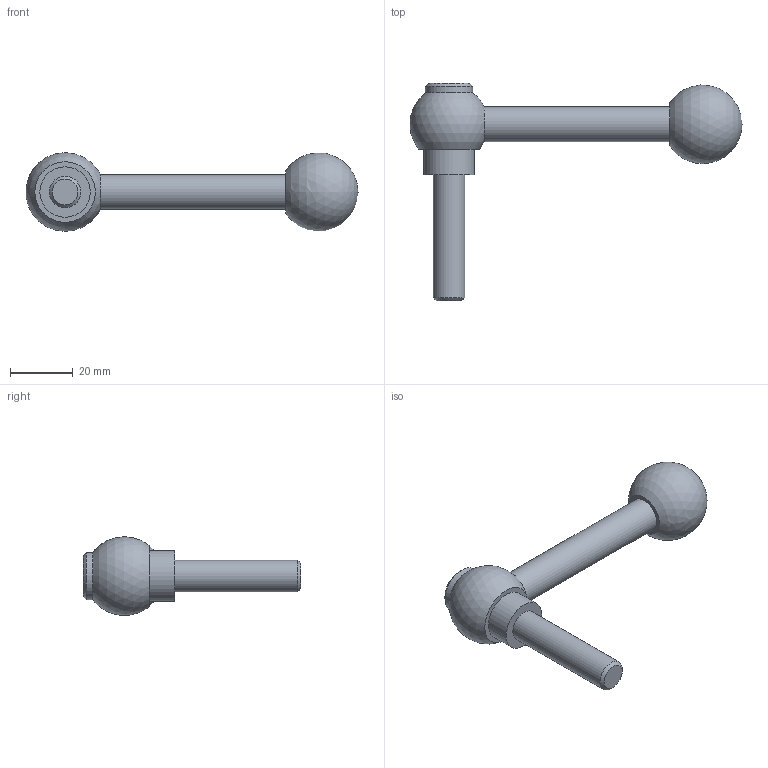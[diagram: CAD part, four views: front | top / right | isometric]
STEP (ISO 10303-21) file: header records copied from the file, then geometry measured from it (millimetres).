
FILE_DESCRIPTION( ( 'STEP AP203' ), '1' );
FILE_NAME( 'C:/Temp/Ganter_Step_05_03_2020/data/2_1/gn_6337_3/gn_6337_3_ms/gn_6337_3_ms_m/Adjustable clamping lever with bolt GN 6337.3-25-M10-40-M.stp', '2020-03-05T11:41:14', ( 'License CC BY-ND 4.0' ), ( 'CADENAS' ), ' ', 'PARTsolutions', ' ' );
FILE_SCHEMA( ( 'CONFIG_CONTROL_DESIGN' ) );
Length unit declared in the file: millimetre
Products named in the file (1): _Adjustable clamping lever with bolt GN 6337.3-25-M10-40-M
Bounding box: 105.41 x 69 x 24.98 mm (x, y, z)
Volume: 26054 mm3; surface area: 7420.3 mm2
Topology: 1 solids, 1 shells, 13 faces, 23 edges, 15 vertices
Faces by surface type: plane 5, cylinder 4, cone 2, sphere 2
Full cylindrical faces by diameter (mm): 10 x1, 11 x1, 15 x1, 16 x1
Entity records: 302 total; most frequent: DIRECTION 52, CARTESIAN_POINT 39, AXIS2_PLACEMENT_3D 26, EDGE_LOOP 24, ORIENTED_EDGE 24, FACE_OUTER_BOUND 18, ADVANCED_FACE 13, VERTEX_POINT 13
